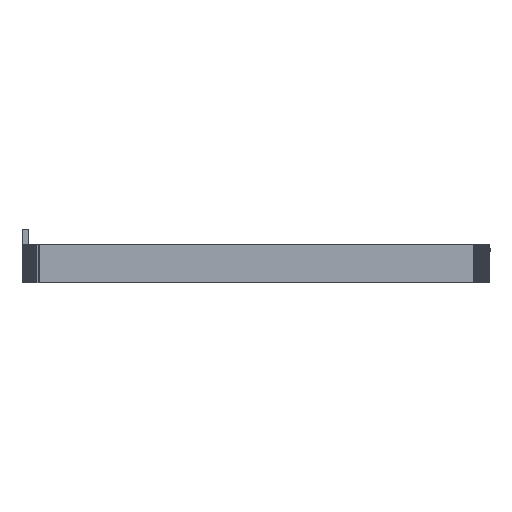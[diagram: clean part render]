
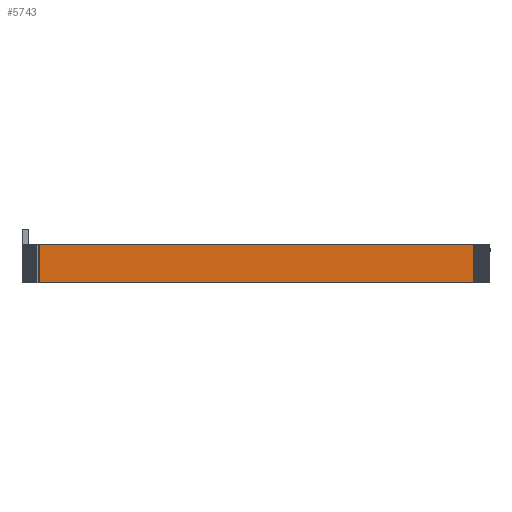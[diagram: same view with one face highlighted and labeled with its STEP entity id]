
A CAD part, front view. The second image highlights one B-rep face of the part: STEP entity #5743.
In plain terms, the highlighted free-form (B-spline) face has degree [1, 1] with [2, 2] control points.
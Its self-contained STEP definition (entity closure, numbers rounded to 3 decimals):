
#42 = B_SPLINE_SURFACE_WITH_KNOTS('',1,1,(
    (#43,#44)
    ,(#45,#46
    )),.UNSPECIFIED.,.F.,.F.,.F.,(2,2),(2,2),(-2055.114,
    2058.54),(-2055.114,2055.114),
  .PIECEWISE_BEZIER_KNOTS.);
#43 = CARTESIAN_POINT('',(102.35,-2.05,0.));
#44 = CARTESIAN_POINT('',(102.35,102.35,0.));
#45 = CARTESIAN_POINT('',(-2.137,-2.05,0.));
#46 = CARTESIAN_POINT('',(-2.137,102.35,0.));
#92 = B_SPLINE_SURFACE_WITH_KNOTS('',1,1,(
    (#93,#94)
    ,(#95,#96
    )),.UNSPECIFIED.,.F.,.F.,.F.,(2,2),(2,2),(-2055.114,
    2055.114),(-2055.114,637.337),
  .PIECEWISE_BEZIER_KNOTS.);
#93 = CARTESIAN_POINT('',(102.35,-2.05,8.5));
#94 = CARTESIAN_POINT('',(102.35,66.338,8.5));
#95 = CARTESIAN_POINT('',(-2.05,-2.05,8.5
    ));
#96 = CARTESIAN_POINT('',(-2.05,66.338,8.5
    ));
#1996 = VERTEX_POINT('',#1997);
#1997 = CARTESIAN_POINT('',(98.6,-2.05,0.));
#2009 = B_SPLINE_SURFACE_WITH_KNOTS('',1,1,(
    (#2010,#2011)
    ,(#2012,#2013
    )),.UNSPECIFIED.,.F.,.F.,.F.,(2,2),(2,2),(0.,10.081),(
    -334.646,0.),.PIECEWISE_BEZIER_KNOTS.);
#2010 = CARTESIAN_POINT('',(98.856,-2.041,
    8.5));
#2011 = CARTESIAN_POINT('',(98.856,-2.041,0.));
#2012 = CARTESIAN_POINT('',(98.6,-2.05,
    8.5));
#2013 = CARTESIAN_POINT('',(98.6,-2.05,0.));
#2020 = EDGE_CURVE('',#1996,#2021,#2023,.T.);
#2021 = VERTEX_POINT('',#2022);
#2022 = CARTESIAN_POINT('',(1.7,-2.05,0.));
#2023 = SURFACE_CURVE('',#2024,(#2027,#2033),.PCURVE_S1.);
#2024 = B_SPLINE_CURVE_WITH_KNOTS('',1,(#2025,#2026),.UNSPECIFIED.,.F.,
  .F.,(2,2),(0.,3814.953),.PIECEWISE_BEZIER_KNOTS.);
#2025 = CARTESIAN_POINT('',(98.6,-2.05,0.));
#2026 = CARTESIAN_POINT('',(1.7,-2.05,0.));
#2027 = PCURVE('',#42,#2028);
#2028 = DEFINITIONAL_REPRESENTATION('',(#2029),#2032);
#2029 = B_SPLINE_CURVE_WITH_KNOTS('',1,(#2030,#2031),.UNSPECIFIED.,.F.,
  .F.,(2,2),(0.,3814.953),.PIECEWISE_BEZIER_KNOTS.);
#2030 = CARTESIAN_POINT('',(-1907.476,-2055.114));
#2031 = CARTESIAN_POINT('',(1907.476,-2055.114));
#2032 = ( GEOMETRIC_REPRESENTATION_CONTEXT(2) 
PARAMETRIC_REPRESENTATION_CONTEXT() REPRESENTATION_CONTEXT('2D SPACE',''
  ) );
#2033 = PCURVE('',#2034,#2039);
#2034 = B_SPLINE_SURFACE_WITH_KNOTS('',1,1,(
    (#2035,#2036)
    ,(#2037,#2038
    )),.UNSPECIFIED.,.F.,.F.,.F.,(2,2),(2,2),(0.,3814.953),(
    -334.646,0.),.PIECEWISE_BEZIER_KNOTS.);
#2035 = CARTESIAN_POINT('',(98.6,-2.05,
    8.5));
#2036 = CARTESIAN_POINT('',(98.6,-2.05,0.));
#2037 = CARTESIAN_POINT('',(1.7,-2.05,8.5
    ));
#2038 = CARTESIAN_POINT('',(1.7,-2.05,0.));
#2039 = DEFINITIONAL_REPRESENTATION('',(#2040),#2043);
#2040 = B_SPLINE_CURVE_WITH_KNOTS('',1,(#2041,#2042),.UNSPECIFIED.,.F.,
  .F.,(2,2),(0.,3814.953),.PIECEWISE_BEZIER_KNOTS.);
#2041 = CARTESIAN_POINT('',(0.,0.));
#2042 = CARTESIAN_POINT('',(3814.953,0.));
#2043 = ( GEOMETRIC_REPRESENTATION_CONTEXT(2) 
PARAMETRIC_REPRESENTATION_CONTEXT() REPRESENTATION_CONTEXT('2D SPACE',''
  ) );
#2059 = B_SPLINE_SURFACE_WITH_KNOTS('',1,1,(
    (#2060,#2061)
    ,(#2062,#2063
    )),.UNSPECIFIED.,.F.,.F.,.F.,(2,2),(2,2),(0.,10.081),(
    -334.646,0.),.PIECEWISE_BEZIER_KNOTS.);
#2060 = CARTESIAN_POINT('',(1.7,-2.05,8.5
    ));
#2061 = CARTESIAN_POINT('',(1.7,-2.05,0.));
#2062 = CARTESIAN_POINT('',(1.444,-2.041,
    8.5));
#2063 = CARTESIAN_POINT('',(1.444,-2.041,0.));
#4735 = VERTEX_POINT('',#4736);
#4736 = CARTESIAN_POINT('',(98.6,-2.05,
    8.5));
#4754 = EDGE_CURVE('',#4735,#4755,#4757,.T.);
#4755 = VERTEX_POINT('',#4756);
#4756 = CARTESIAN_POINT('',(1.7,-2.05,8.5
    ));
#4757 = SURFACE_CURVE('',#4758,(#4761,#4767),.PCURVE_S1.);
#4758 = B_SPLINE_CURVE_WITH_KNOTS('',1,(#4759,#4760),.UNSPECIFIED.,.F.,
  .F.,(2,2),(0.,3814.953),.PIECEWISE_BEZIER_KNOTS.);
#4759 = CARTESIAN_POINT('',(98.6,-2.05,
    8.5));
#4760 = CARTESIAN_POINT('',(1.7,-2.05,8.5
    ));
#4761 = PCURVE('',#92,#4762);
#4762 = DEFINITIONAL_REPRESENTATION('',(#4763),#4766);
#4763 = B_SPLINE_CURVE_WITH_KNOTS('',1,(#4764,#4765),.UNSPECIFIED.,.F.,
  .F.,(2,2),(0.,3814.953),.PIECEWISE_BEZIER_KNOTS.);
#4764 = CARTESIAN_POINT('',(-1907.476,-2055.114));
#4765 = CARTESIAN_POINT('',(1907.476,-2055.114));
#4766 = ( GEOMETRIC_REPRESENTATION_CONTEXT(2) 
PARAMETRIC_REPRESENTATION_CONTEXT() REPRESENTATION_CONTEXT('2D SPACE',''
  ) );
#4767 = PCURVE('',#2034,#4768);
#4768 = DEFINITIONAL_REPRESENTATION('',(#4769),#4772);
#4769 = B_SPLINE_CURVE_WITH_KNOTS('',1,(#4770,#4771),.UNSPECIFIED.,.F.,
  .F.,(2,2),(0.,3814.953),.PIECEWISE_BEZIER_KNOTS.);
#4770 = CARTESIAN_POINT('',(0.,-334.646));
#4771 = CARTESIAN_POINT('',(3814.953,-334.646));
#4772 = ( GEOMETRIC_REPRESENTATION_CONTEXT(2) 
PARAMETRIC_REPRESENTATION_CONTEXT() REPRESENTATION_CONTEXT('2D SPACE',''
  ) );
#5723 = EDGE_CURVE('',#2021,#4755,#5724,.T.);
#5724 = SURFACE_CURVE('',#5725,(#5728,#5734),.PCURVE_S1.);
#5725 = B_SPLINE_CURVE_WITH_KNOTS('',1,(#5726,#5727),.UNSPECIFIED.,.F.,
  .F.,(2,2),(0.,334.646),.PIECEWISE_BEZIER_KNOTS.);
#5726 = CARTESIAN_POINT('',(1.7,-2.05,0.));
#5727 = CARTESIAN_POINT('',(1.7,-2.05,8.5
    ));
#5728 = PCURVE('',#2059,#5729);
#5729 = DEFINITIONAL_REPRESENTATION('',(#5730),#5733);
#5730 = B_SPLINE_CURVE_WITH_KNOTS('',1,(#5731,#5732),.UNSPECIFIED.,.F.,
  .F.,(2,2),(0.,334.646),.PIECEWISE_BEZIER_KNOTS.);
#5731 = CARTESIAN_POINT('',(0.,0.));
#5732 = CARTESIAN_POINT('',(0.,-334.646));
#5733 = ( GEOMETRIC_REPRESENTATION_CONTEXT(2) 
PARAMETRIC_REPRESENTATION_CONTEXT() REPRESENTATION_CONTEXT('2D SPACE',''
  ) );
#5734 = PCURVE('',#2034,#5735);
#5735 = DEFINITIONAL_REPRESENTATION('',(#5736),#5739);
#5736 = B_SPLINE_CURVE_WITH_KNOTS('',1,(#5737,#5738),.UNSPECIFIED.,.F.,
  .F.,(2,2),(0.,334.646),.PIECEWISE_BEZIER_KNOTS.);
#5737 = CARTESIAN_POINT('',(3814.953,0.));
#5738 = CARTESIAN_POINT('',(3814.953,-334.646));
#5739 = ( GEOMETRIC_REPRESENTATION_CONTEXT(2) 
PARAMETRIC_REPRESENTATION_CONTEXT() REPRESENTATION_CONTEXT('2D SPACE',''
  ) );
#5743 = ADVANCED_FACE('',(#5744),#2034,.T.);
#5744 = FACE_BOUND('',#5745,.T.);
#5745 = EDGE_LOOP('',(#5746,#5764,#5765,#5766));
#5746 = ORIENTED_EDGE('',*,*,#5747,.T.);
#5747 = EDGE_CURVE('',#1996,#4735,#5748,.T.);
#5748 = SURFACE_CURVE('',#5749,(#5752,#5758),.PCURVE_S1.);
#5749 = B_SPLINE_CURVE_WITH_KNOTS('',1,(#5750,#5751),.UNSPECIFIED.,.F.,
  .F.,(2,2),(0.,334.646),.PIECEWISE_BEZIER_KNOTS.);
#5750 = CARTESIAN_POINT('',(98.6,-2.05,0.));
#5751 = CARTESIAN_POINT('',(98.6,-2.05,
    8.5));
#5752 = PCURVE('',#2034,#5753);
#5753 = DEFINITIONAL_REPRESENTATION('',(#5754),#5757);
#5754 = B_SPLINE_CURVE_WITH_KNOTS('',1,(#5755,#5756),.UNSPECIFIED.,.F.,
  .F.,(2,2),(0.,334.646),.PIECEWISE_BEZIER_KNOTS.);
#5755 = CARTESIAN_POINT('',(0.,0.));
#5756 = CARTESIAN_POINT('',(0.,-334.646));
#5757 = ( GEOMETRIC_REPRESENTATION_CONTEXT(2) 
PARAMETRIC_REPRESENTATION_CONTEXT() REPRESENTATION_CONTEXT('2D SPACE',''
  ) );
#5758 = PCURVE('',#2009,#5759);
#5759 = DEFINITIONAL_REPRESENTATION('',(#5760),#5763);
#5760 = B_SPLINE_CURVE_WITH_KNOTS('',1,(#5761,#5762),.UNSPECIFIED.,.F.,
  .F.,(2,2),(0.,334.646),.PIECEWISE_BEZIER_KNOTS.);
#5761 = CARTESIAN_POINT('',(10.081,0.));
#5762 = CARTESIAN_POINT('',(10.081,-334.646));
#5763 = ( GEOMETRIC_REPRESENTATION_CONTEXT(2) 
PARAMETRIC_REPRESENTATION_CONTEXT() REPRESENTATION_CONTEXT('2D SPACE',''
  ) );
#5764 = ORIENTED_EDGE('',*,*,#4754,.T.);
#5765 = ORIENTED_EDGE('',*,*,#5723,.F.);
#5766 = ORIENTED_EDGE('',*,*,#2020,.F.);
